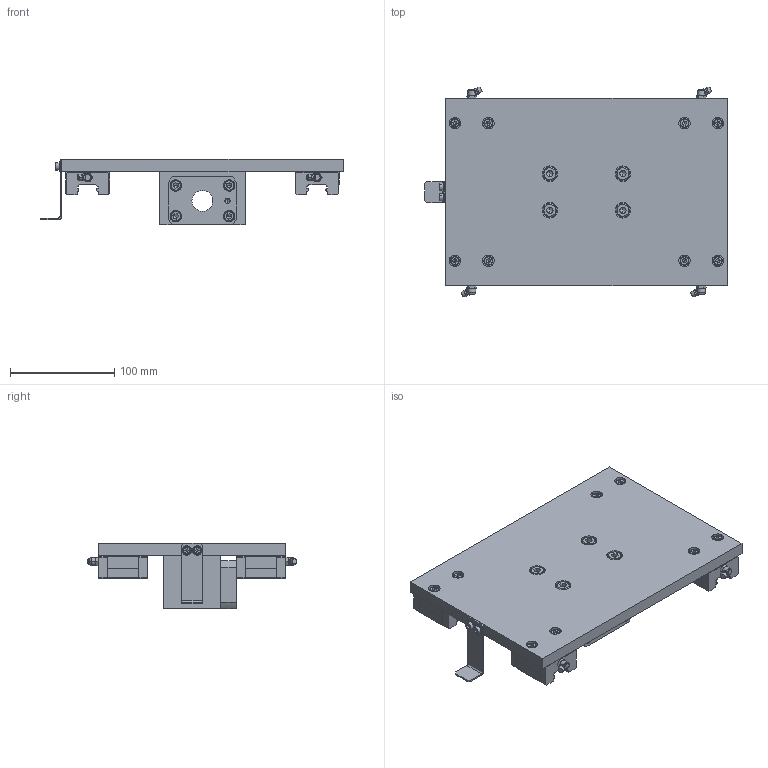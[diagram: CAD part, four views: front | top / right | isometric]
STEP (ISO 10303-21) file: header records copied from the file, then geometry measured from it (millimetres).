
FILE_DESCRIPTION (( 'STEP AP214' ), '1' );
FILE_NAME ('04_Single_axis_linear_guide_Y-10.STEP', '2020-07-20T22:53:01', ( '' ), ( '' ), 'SwSTEP 2.0', 'SolidWorks 2017', '' );
FILE_SCHEMA (( 'AUTOMOTIVE_DESIGN' ));
Length unit declared in the file: millimetre
Products named in the file (13): 0825_001_BSS2010-500; 0825_314_SCB4-8; BLOCK_0825_006_SV2RZ28-580; NAT-2_0825_001_BSS2010-500; 0825_310_SCB5-10; 0825_006_SV2RZ28-580; 0825_004_BNFA2010S-28; 0825_307_SCB8-15; 0825_315_SPWF4; 04_Single_axis_linear_guide_Y-10; 0825_202_Plate; 0825_306_SCB6-18; 0825_010_FACAS-SUD-T1.5-A20-B58-L20-Y5.0-V10.0-S51.0-NA4
Assembly tree (29 placements, depth 3):
  04_Single_axis_linear_guide_Y-10
    0825_001_BSS2010-500
      NAT-2_0825_001_BSS2010-500
    0825_004_BNFA2010S-28
    0825_006_SV2RZ28-580  x2
      BLOCK_0825_006_SV2RZ28-580
    0825_010_FACAS-SUD-T1.5-A20-B58-L20-Y5.0-V10.0-S51.0-NA4
    0825_202_Plate
    0825_306_SCB6-18  x4
    0825_307_SCB8-15  x4
    0825_310_SCB5-10  x8
    0825_315_SPWF4  x2
    0825_314_SCB4-8  x2
Bounding box: 290 x 201.2 x 63 mm (x, y, z)
Volume: 949834.4 mm3; surface area: 210816.2 mm2
Topology: 28 solids, 28 shells, 968 faces, 2371 edges, 1464 vertices
Faces by surface type: plane 518, cylinder 245, cone 194, bspline 11
Entity records: 16467 total; most frequent: CARTESIAN_POINT 2332, DIRECTION 2063, ORIENTED_EDGE 1852, EDGE_CURVE 926, AXIS2_PLACEMENT_3D 774, VERTEX_POINT 601, VECTOR 515, LINE 515
